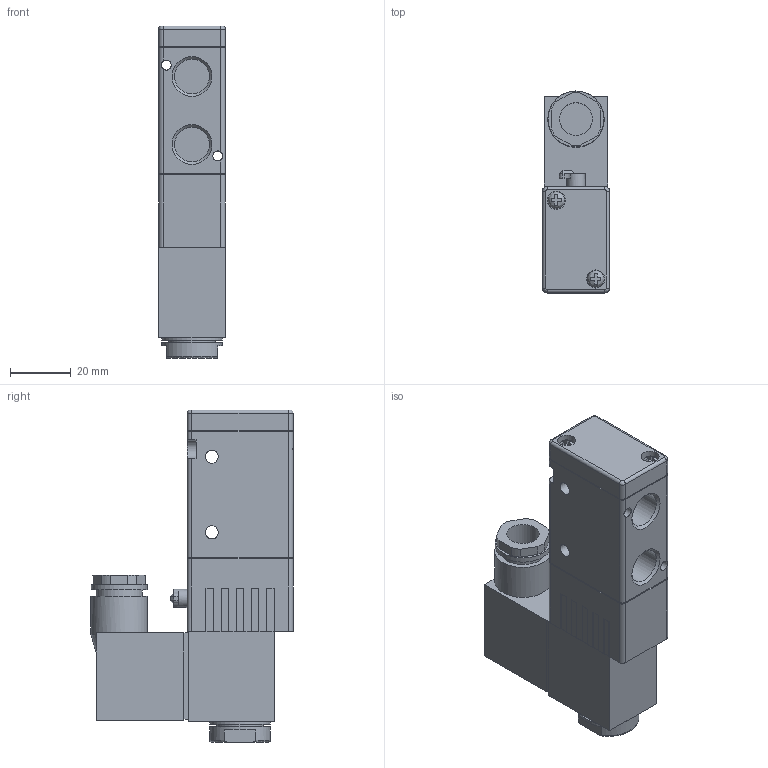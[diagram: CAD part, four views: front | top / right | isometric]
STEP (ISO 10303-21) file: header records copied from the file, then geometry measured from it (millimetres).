
FILE_DESCRIPTION(/* description */ ('STEP AP214'),/* implementation_level */ '2;1');
FILE_NAME(/* name */ '86-MV-3-14-311-Mxx.stp',/* time_stamp */ '2025-10-08T08:33:31+02:00',/* author */ ('Tschernatsch'),/* organization */ ('CADENAS'),/* preprocessor_version */ 'ST-DEVELOPER v20',/* originating_system */ 'Autodesk Inventor 2024',/* authorisation */ ' ');
FILE_SCHEMA (('AUTOMOTIVE_DESIGN { 1 0 10303 214 3 1 1 }'));
Length unit declared in the file: millimetre
Products named in the file (1): J3V210-08NC-DC24V
Bounding box: 22 x 66.7 x 109.6 mm (x, y, z)
Volume: 93403.6 mm3; surface area: 20949.4 mm2
Topology: 1 solids, 1 shells, 257 faces, 653 edges, 411 vertices
Faces by surface type: plane 182, cylinder 49, cone 18, bspline 6, torus 2
Full cylindrical faces by diameter (mm): 3.3 x2, 4.3 x2, 5.5 x2, 6 x3, 10.8 x1, 11.445 x3, 15.2 x2, 18.4 x1, 18.6 x1, 20 x2
Entity records: 8229 total; most frequent: CARTESIAN_POINT 1682, ORIENTED_EDGE 1306, DIRECTION 1259, EDGE_CURVE 653, LINE 471, VECTOR 471, VERTEX_POINT 411, AXIS2_PLACEMENT_3D 394
